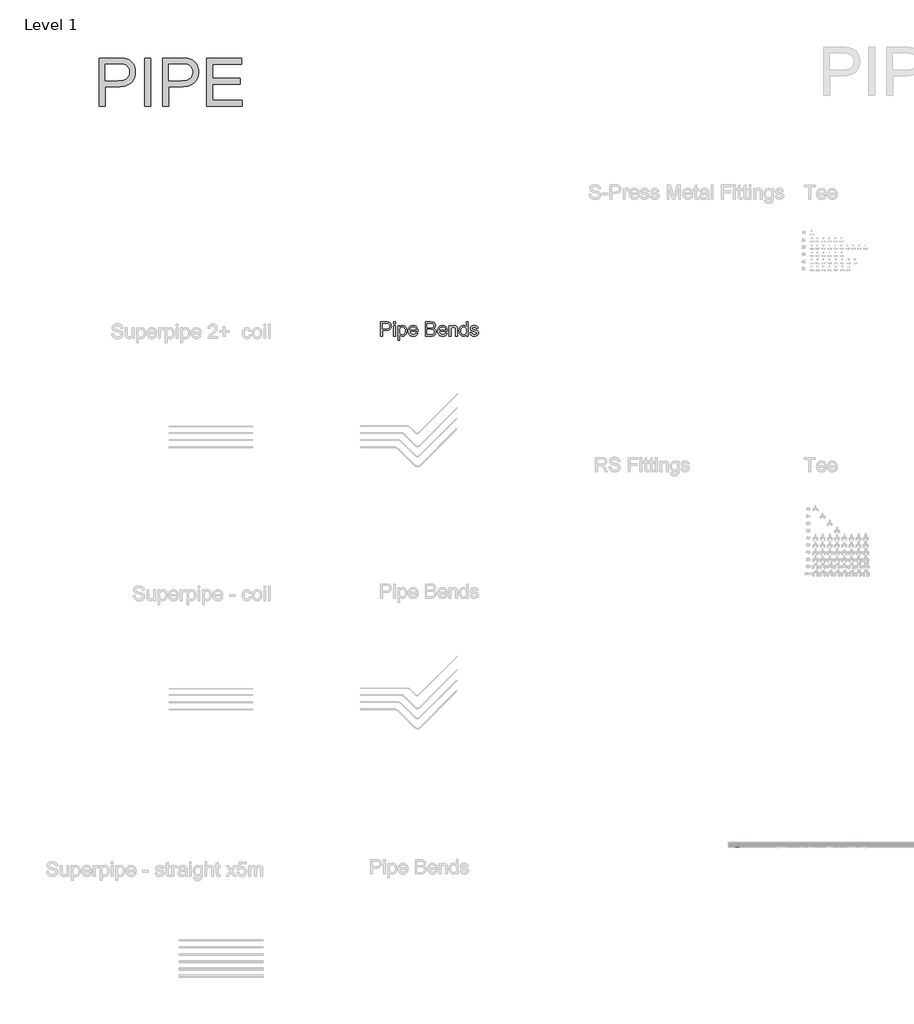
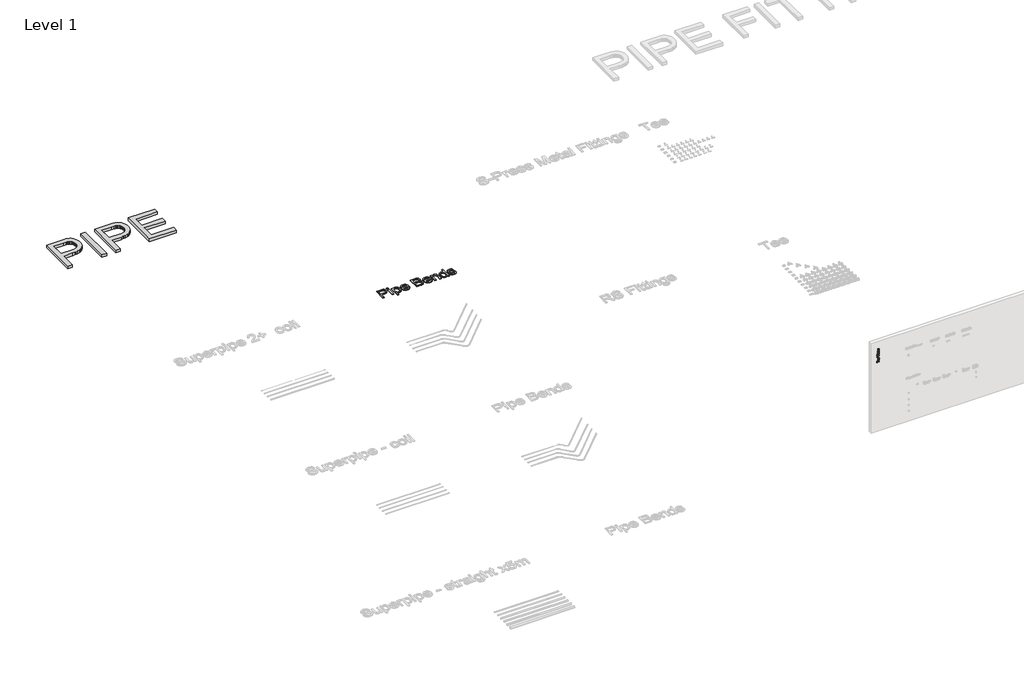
# One storey, part 11 of 58: 3 proxies.
"""IFC4 building model written with IfcOpenShell, lengths in millimetres."""

from ifc_helpers import new_model, si_unit, frame, origin, place, context, project, spatial, polyline, outline, extrude, element, save

model = new_model("IFC4")

# Units and contexts
model_context = context("Model", 3, world=origin())
ifc_project = project(units=[si_unit("LENGTHUNIT", "METRE", prefix="MILLI")], contexts=[model_context])

# Site, building, storey
site = spatial("IfcSite", under=ifc_project)
building = spatial("IfcBuilding", under=site)
storey = spatial("IfcBuildingStorey", under=building, Name="Level 1", Elevation=27.3876384)

# Proxies
placement = place(None, origin())
element("IfcBuildingElementProxy", 1, Name="125mm Arial - color", ObjectType="125mm Arial - color", at=placement, inside=storey, context=model_context, shape_type="SweptSolid", body=[
    extrude(outline(polyline([(4047.2802199, 10050.1646823), (4062.9765184, 10050.1646823), (4062.9765184, 9940.290593), (4104.1793018, 9940.290593), (4104.1793018, 9924.5942946), (4006.0774365, 9924.5942946), (4006.0774365, 9940.290593), (4047.2802199, 9940.290593), (4047.2802199, 10050.1646823)])), frame((0.0, 4542.8703674, 0.0), z_axis=(0.0, 1.0, 0.0), x_axis=(0.0, 0.0, 1.0)), (0.0, 0.0, 1.0), 2.0),
    extrude(outline(polyline([(4178.7367195, 10038.3924584), (4182.6607941, 10050.1646823), (4198.3570926, 10050.1646823), (4195.2300956, 10036.9669157), (4194.433018, 10009.6976628), (4194.433018, 9990.1692602), (4193.6665972, 9976.4349991), (4188.8534744, 9965.7817496), (4178.1082544, 9958.7766633), (4159.0856896, 9955.9868915), (4138.376999, 9959.1445453), (4124.7040515, 9968.1269973), (4117.913563, 9983.4554138), (4133.6098614, 9985.4174511), (4141.1820992, 9974.702888), (4157.0623386, 9971.6831899), (4174.4141061, 9976.2204012), (4178.7367195, 9987.8086841), (4178.644749, 9991.303563), (4151.4214814, 9996.6991656), (4137.8405044, 9999.0597418), (4126.8500298, 10004.2100897), (4118.9558953, 10013.2231986), (4115.9515257, 10025.6392159), (4117.9403877, 10036.1928306), (4123.9069738, 10044.6771092), (4133.5830367, 10050.264317), (4146.7003291, 10052.1267196), (4163.515602, 10049.0303794), (4178.7367195, 10038.3924584)]), holes=[polyline([(4178.7367195, 10006.9998615), (4178.644749, 10011.4451023), (4176.1615456, 10023.5852081), (4165.9221634, 10032.6749591), (4150.0419239, 10036.4304211), (4136.3229912, 10033.0275126), (4131.6478241, 10024.5355699), (4133.7938024, 10018.4961738), (4139.9098406, 10014.3575014), (4153.4141755, 10011.8129843), (4178.7367195, 10006.9998615)])]), frame((0.0, 4542.8703674, 0.0), z_axis=(0.0, 1.0, 0.0), x_axis=(0.0, 0.0, 1.0)), (0.0, 0.0, 1.0), 2.0),
    extrude(outline(polyline([(4216.0154284, 10085.4813538), (4231.7117268, 10085.4813538), (4231.7117268, 10037.9019491), (4241.6598691, 10048.095346), (4255.3174882, 10052.1267196), (4275.1677875, 10046.1026519), (4283.4757892, 10038.7603404), (4289.5458422, 10028.7815413), (4294.4969207, 10003.3516984), (4290.1129936, 9979.1634572), (4284.6714057, 9969.3685991), (4277.1144964, 9962.0569444), (4267.8331402, 9957.5044047), (4257.2182118, 9955.9868915), (4242.5642457, 9960.3248333), (4231.7117268, 9973.3386589), (4231.7117268, 9957.9489288), (4216.0154284, 9957.9489288), (4216.0154284, 10085.4813538)]), holes=[polyline([(4231.7117268, 10004.7925695), (4233.5243121, 9990.5563027), (4238.9620678, 9980.1598043), (4246.7527355, 9973.8023435), (4255.6240565, 9971.6831899), (4264.4608886, 9973.6758841), (4271.9641485, 9979.6539665), (4277.0915038, 9989.6327656), (4278.8006222, 10003.6276099), (4277.0493506, 10018.2279265), (4271.7955359, 10028.4289877), (4264.0891745, 10034.4300627), (4254.980263, 10036.4304211), (4246.0169715, 10034.4990406), (4238.5022153, 10028.7048992), (4233.4093489, 10018.8640558), (4231.7117268, 10004.7925695)])]), frame((0.0, 4542.8703674, 0.0), z_axis=(0.0, 1.0, 0.0), x_axis=(0.0, 0.0, 1.0)), (0.0, 0.0, 1.0), 2.0),
    extrude(outline(polyline([(4385.639685, 10050.1646823), (4404.5856077, 10050.1646823), (4432.0234732, 9956.0482052), (4436.7446255, 9939.7694269), (4440.9446116, 9953.2890902), (4471.0496215, 10050.1646823), (4487.8189091, 10050.1646823), (4522.0932484, 9924.5942946), (4505.9064406, 9924.5942946), (4485.8568718, 10007.8582528), (4479.9094462, 10032.598317), (4466.4510966, 9986.5517539), (4448.3635652, 9924.5942946), (4425.0337153, 9924.5942946), (4400.140367, 10010.0655448), (4393.5798047, 10032.598317), (4387.4484381, 10007.1224888), (4367.5828104, 9924.5942946), (4351.3960026, 9924.5942946), (4385.639685, 10050.1646823)])), frame((0.0, 4542.8703674, 0.0), z_axis=(0.0, 1.0, 0.0), x_axis=(0.0, 0.0, 1.0)), (0.0, 0.0, 1.0), 2.0),
    extrude(outline(polyline([(4594.6886287, 10038.3924584), (4598.6127033, 10050.1646823), (4614.3090018, 10050.1646823), (4611.1820049, 10036.9669157), (4610.3849272, 10009.6976628), (4610.3849272, 9990.1692602), (4609.6185064, 9976.4349991), (4604.8053836, 9965.7817496), (4594.0601637, 9958.7766633), (4575.0375988, 9955.9868915), (4554.3289082, 9959.1445453), (4540.6559607, 9968.1269973), (4533.8654722, 9983.4554138), (4549.5617707, 9985.4174511), (4557.1340084, 9974.702888), (4573.0142479, 9971.6831899), (4590.3660153, 9976.2204012), (4594.6886287, 9987.8086841), (4594.5966582, 9991.303563), (4567.3733906, 9996.6991656), (4553.7924136, 9999.0597418), (4542.801939, 10004.2100897), (4534.9078045, 10013.2231986), (4531.9034349, 10025.6392159), (4533.8922969, 10036.1928306), (4539.858883, 10044.6771092), (4549.5349459, 10050.264317), (4562.6522383, 10052.1267196), (4579.4675112, 10049.0303794), (4594.6886287, 10038.3924584)]), holes=[polyline([(4594.6886287, 10006.9998615), (4594.5966582, 10011.4451023), (4592.1134548, 10023.5852081), (4581.8740726, 10032.6749591), (4565.9938331, 10036.4304211), (4552.2749004, 10033.0275126), (4547.5997334, 10024.5355699), (4549.7457117, 10018.4961738), (4555.8617498, 10014.3575014), (4569.3660847, 10011.8129843), (4594.6886287, 10006.9998615)])]), frame((0.0, 4542.8703674, 0.0), z_axis=(0.0, 1.0, 0.0), x_axis=(0.0, 0.0, 1.0)), (0.0, 0.0, 1.0), 2.0),
    extrude(outline(polyline([(4665.3219718, 10037.0742146), (4658.4854981, 10036.4304211), (4653.1358807, 10035.3727604), (4650.4534078, 10032.5063465), (4649.6256733, 10024.4129426), (4649.6256733, 9973.6452273), (4665.3219718, 9973.6452273), (4665.3219718, 9957.9489288), (4649.6256733, 9957.9489288), (4649.6256733, 9926.3110772), (4633.9293749, 9935.5387839), (4633.9293749, 9957.9489288), (4622.157151, 9957.9489288), (4622.157151, 9973.6452273), (4633.9293749, 9973.6452273), (4633.9293749, 10024.8727951), (4635.8300985, 10042.684415), (4642.3906608, 10049.5208888), (4655.5424421, 10052.1267196), (4667.2840091, 10050.6245347), (4665.3219718, 10037.0742146)])), frame((0.0, 4542.8703674, 0.0), z_axis=(0.0, 1.0, 0.0), x_axis=(0.0, 0.0, 1.0)), (0.0, 0.0, 1.0), 2.0),
    extrude(outline(polyline([(4745.5815604, 10022.6961599), (4735.4648056, 10033.15014), (4720.0750754, 10036.4304211), (4708.9658056, 10034.659989), (4699.8568941, 10029.3486927), (4693.5454186, 10020.71113), (4690.8284568, 10008.9618988), (4761.3698294, 10008.9618988), (4761.4617999, 10004.7312558), (4758.484255, 9984.1528567), (4749.5516203, 9968.7707908), (4735.9284902, 9959.1828663), (4718.8794589, 9955.9868915), (4701.2824368, 9959.1905305), (4687.302921, 9968.8014477), (4678.174849, 9984.2141704), (4675.1321583, 10004.8232263), (4678.1441922, 10024.7616641), (4687.1802937, 10039.6953738), (4701.3514147, 10049.0188831), (4719.7685071, 10052.1267196), (4734.6255748, 10050.3256306), (4746.5779075, 10044.9223638), (4755.4262359, 10036.2541443), (4760.9712906, 10024.6581973), (4745.5815604, 10022.6961599)]), holes=[polyline([(4690.8284568, 9993.2656003), (4693.4074629, 9984.4172719), (4699.4890121, 9977.5539735), (4708.2377058, 9973.1508858), (4718.8181453, 9971.6831899), (4730.329786, 9973.5225999), (4739.4808507, 9979.0408299), (4745.7655014, 9993.2656003), (4690.8284568, 9993.2656003)])]), frame((0.0, 4542.8703674, 0.0), z_axis=(0.0, 1.0, 0.0), x_axis=(0.0, 0.0, 1.0)), (0.0, 0.0, 1.0), 2.0),
    extrude(outline(polyline([(4777.1580983, 10050.1646823), (4792.8543968, 10050.1646823), (4792.8543968, 10001.6962294), (4795.3989139, 9983.3634433), (4801.0550996, 9974.7795301), (4809.9302527, 9971.6831899), (4820.9667126, 9974.9021574), (4826.209031, 9960.8306711), (4810.4514189, 9955.9868915), (4800.6412324, 9959.0219179), (4790.8923595, 9971.5912194), (4790.8923595, 9957.9489288), (4777.1580983, 9957.9489288), (4777.1580983, 10050.1646823)])), frame((0.0, 4542.8703674, 0.0), z_axis=(0.0, 1.0, 0.0), x_axis=(0.0, 0.0, 1.0)), (0.0, 0.0, 1.0), 2.0),
])
element("IfcBuildingElementProxy", 2, Name="2000mm Arial", ObjectType="2000mm Arial", at=placement, inside=storey, context=model_context, shape_type="SweptSolid", body=[
    extrude(outline(polyline([(-16641.0429592, 35469.9645054), (-16641.0429592, 37479.0907084), (-15896.449801, 37479.0907084), (-15723.0547539, 37474.3082425), (-15653.8316252, 37468.3301601), (-15596.2580929, 37459.9608447), (-15526.3758423, 37444.8930113), (-15462.4103604, 37424.2149775), (-15404.3616472, 37397.9267433), (-15352.2297028, 37366.0283086), (-15305.4627042, 37327.8605516), (-15263.5088283, 37282.7643503), (-15226.3680752, 37230.7397049), (-15194.0404449, 37171.7866151), (-15167.8595096, 37107.8517901), (-15149.1588415, 37040.8819385), (-15137.9384406, 36970.8770605), (-15134.198307, 36897.8371561), (-15136.7236636, 36834.9369991), (-15144.2997334, 36774.5047172), (-15156.9265165, 36716.5403103), (-15174.6040128, 36661.0437785), (-15197.3322223, 36608.0151217), (-15225.1111451, 36557.45434), (-15257.940781, 36509.3614334), (-15295.8211302, 36463.7364017), (-15340.2926985, 36422.119751), (-15392.8959917, 36386.0519871), (-15453.6310098, 36355.5331099), (-15522.4977529, 36330.5631195), (-15599.4962209, 36311.1420158), (-15684.6264139, 36297.2697989), (-15777.8883317, 36288.9464688), (-15879.2819746, 36286.1720254), (-16389.9021839, 36286.1720254), (-16389.9021839, 35469.9645054), (-16641.0429592, 35469.9645054)]), holes=[polyline([(-16389.9021839, 36537.3128008), (-15864.5666948, 36537.3128008), (-15743.778773, 36543.0762854), (-15690.4665405, 36550.2806411), (-15641.8754603, 36560.3667391), (-15598.0055324, 36573.3345795), (-15558.8567568, 36589.1841621), (-15524.4291334, 36607.915487), (-15494.7226623, 36629.5285542), (-15469.0858857, 36653.7551165), (-15446.8673461, 36680.3269264), (-15428.0670433, 36709.2439841), (-15412.6849773, 36740.5062895), (-15400.7211483, 36774.1138426), (-15392.1755561, 36810.0666434), (-15387.0482008, 36848.3646919), (-15385.3390824, 36889.0079882), (-15389.3704559, 36947.6238527), (-15401.4645765, 37001.8251334), (-15421.6214441, 37051.61183), (-15449.8410589, 37096.9839428), (-15484.6212358, 37136.4699436), (-15524.4597902, 37168.5983045), (-15569.356722, 37193.3690255), (-15619.3120313, 37210.7821066), (-15660.5761284, 37218.2930307), (-15716.1876234, 37223.6579765), (-15870.4528067, 37227.9499331), (-16389.9021839, 37227.9499331), (-16389.9021839, 36537.3128008)])]), frame((0.0, 0.0, 27.3876384), z_axis=(0.0, 0.0, 1.0), x_axis=(1.0, 0.0, 0.0)), (0.0, 0.0, 1.0), 150.0),
    extrude(outline(polyline([(-14757.4871439, 35469.9645054), (-14757.4871439, 37479.0907084), (-14506.3463686, 37479.0907084), (-14506.3463686, 35469.9645054), (-14757.4871439, 35469.9645054)])), frame((0.0, 0.0, 27.3876384), z_axis=(0.0, 0.0, 1.0), x_axis=(1.0, 0.0, 0.0)), (0.0, 0.0, 1.0), 150.0),
    extrude(outline(polyline([(-14004.0648178, 35469.9645054), (-14004.0648178, 37479.0907084), (-13259.4716596, 37479.0907084), (-13086.0766125, 37474.3082425), (-13016.8534838, 37468.3301601), (-12959.2799515, 37459.9608447), (-12889.3977008, 37444.8930113), (-12825.4322189, 37424.2149775), (-12767.3835058, 37397.9267433), (-12715.2515614, 37366.0283086), (-12668.4845627, 37327.8605516), (-12626.5306869, 37282.7643503), (-12589.3899338, 37230.7397049), (-12557.0623034, 37171.7866151), (-12530.8813681, 37107.8517901), (-12512.1807, 37040.8819385), (-12500.9602992, 36970.8770605), (-12497.2201656, 36897.8371561), (-12499.7455222, 36834.9369991), (-12507.321592, 36774.5047172), (-12519.9483751, 36716.5403103), (-12537.6258714, 36661.0437785), (-12560.3540809, 36608.0151217), (-12588.1330036, 36557.45434), (-12620.9626396, 36509.3614334), (-12658.8429888, 36463.7364017), (-12703.3145571, 36422.119751), (-12755.9178503, 36386.0519871), (-12816.6528684, 36355.5331099), (-12885.5196115, 36330.5631195), (-12962.5180795, 36311.1420158), (-13047.6482724, 36297.2697989), (-13140.9101903, 36288.9464688), (-13242.3038331, 36286.1720254), (-13752.9240424, 36286.1720254), (-13752.9240424, 35469.9645054), (-14004.0648178, 35469.9645054)]), holes=[polyline([(-13752.9240424, 36537.3128008), (-13227.5885533, 36537.3128008), (-13106.8006316, 36543.0762854), (-13053.4883991, 36550.2806411), (-13004.8973189, 36560.3667391), (-12961.027391, 36573.3345795), (-12921.8786153, 36589.1841621), (-12887.4509919, 36607.915487), (-12857.7445208, 36629.5285542), (-12832.1077443, 36653.7551165), (-12809.8892046, 36680.3269264), (-12791.0889018, 36709.2439841), (-12775.7068359, 36740.5062895), (-12763.7430069, 36774.1138426), (-12755.1974147, 36810.0666434), (-12750.0700594, 36848.3646919), (-12748.3609409, 36889.0079882), (-12752.3923145, 36947.6238527), (-12764.4864351, 37001.8251334), (-12784.6433027, 37051.61183), (-12812.8629174, 37096.9839428), (-12847.6430944, 37136.4699436), (-12887.4816488, 37168.5983045), (-12932.3785806, 37193.3690255), (-12982.3338899, 37210.7821066), (-13023.597987, 37218.2930307), (-13079.2094819, 37223.6579765), (-13233.4746652, 37227.9499331), (-13752.9240424, 37227.9499331), (-13752.9240424, 36537.3128008)])]), frame((0.0, 0.0, 27.3876384), z_axis=(0.0, 0.0, 1.0), x_axis=(1.0, 0.0, 0.0)), (0.0, 0.0, 1.0), 150.0),
    extrude(outline(polyline([(-12151.9015994, 35469.9645054), (-12151.9015994, 37479.0907084), (-10707.842141, 37479.0907084), (-10707.842141, 37227.9499331), (-11900.7608241, 37227.9499331), (-11900.7608241, 36631.4905915), (-10770.6273349, 36631.4905915), (-10770.6273349, 36380.3498162), (-11900.7608241, 36380.3498162), (-11900.7608241, 35721.1052808), (-10676.4495441, 35721.1052808), (-10676.4495441, 35469.9645054), (-12151.9015994, 35469.9645054)])), frame((0.0, 0.0, 27.3876384), z_axis=(0.0, 0.0, 1.0), x_axis=(1.0, 0.0, 0.0)), (0.0, 0.0, 1.0), 150.0),
])
element("IfcBuildingElementProxy", 3, Name="600mm Arial", ObjectType="600mm Arial", at=placement, inside=storey, context=model_context, shape_type="SweptSolid", body=[
    extrude(outline(polyline([(-4890.0474702, 25873.588582), (-4890.0474702, 26464.3578128), (-4671.1051625, 26464.3578128), (-4620.1195855, 26462.9515628), (-4582.8359317, 26458.7328128), (-4543.4789605, 26448.2219955), (-4511.081124, 26431.1126205), (-4484.9933836, 26406.6294474), (-4464.5667009, 26373.9972359), (-4451.3695855, 26335.5056494), (-4446.9705471, 26293.4443513), (-4449.9407995, 26257.1793272), (-4458.8515567, 26223.8169474), (-4473.7028187, 26193.3572119), (-4494.4945855, 26165.8001205), (-4523.0387562, 26142.9575724), (-4561.1472298, 26126.6414667), (-4608.8200062, 26116.8518032), (-4666.0570855, 26113.588582), (-4816.2013163, 26113.588582), (-4816.2013163, 25873.588582), (-4890.0474702, 25873.588582)]), holes=[polyline([(-4816.2013163, 26187.4347359), (-4661.7301625, 26187.4347359), (-4626.2133355, 26189.1294474), (-4596.2493932, 26194.213582), (-4571.8383355, 26202.6871397), (-4552.9801625, 26214.5501205), (-4538.908648, 26229.4870195), (-4528.8575663, 26247.182332), (-4522.8269173, 26267.636058), (-4520.8167009, 26290.8481974), (-4525.5582875, 26324.0212744), (-4539.7830471, 26352.0020436), (-4561.7241529, 26373.0597359), (-4589.6147779, 26385.463582), (-4618.1003548, 26389.2496397), (-4663.4609317, 26390.511659), (-4816.2013163, 26390.511659), (-4816.2013163, 26187.4347359)])]), frame((0.0, 0.0, 27.3876384), z_axis=(0.0, 0.0, 1.0), x_axis=(1.0, 0.0, 0.0)), (0.0, 0.0, 1.0), 30.0),
    extrude(outline(polyline([(-4354.6628548, 25873.588582), (-4354.6628548, 26307.4347359), (-4280.8167009, 26307.4347359), (-4280.8167009, 25873.588582), (-4354.6628548, 25873.588582)])), frame((0.0, 0.0, 27.3876384), z_axis=(0.0, 0.0, 1.0), x_axis=(1.0, 0.0, 0.0)), (0.0, 0.0, 1.0), 30.0),
    extrude(outline(polyline([(-4354.6628548, 26390.511659), (-4354.6628548, 26464.3578128), (-4280.8167009, 26464.3578128), (-4280.8167009, 26390.511659), (-4354.6628548, 26390.511659)])), frame((0.0, 0.0, 27.3876384), z_axis=(0.0, 0.0, 1.0), x_axis=(1.0, 0.0, 0.0)), (0.0, 0.0, 1.0), 30.0),
    extrude(outline(polyline([(-4170.0474702, 25707.4347359), (-4170.0474702, 26307.4347359), (-4096.2013163, 26307.4347359), (-4096.2013163, 26235.0308897), (-4072.1147779, 26270.746034), (-4045.143624, 26296.2568513), (-4013.7013163, 26311.5633417), (-3976.2013163, 26316.6655051), (-3950.4471096, 26314.8806494), (-3926.2614125, 26309.526082), (-3903.644225, 26300.6018032), (-3882.5955471, 26288.1078128), (-3863.5751144, 26272.3686301), (-3847.0426625, 26253.7087744), (-3832.9981913, 26232.1282455), (-3821.4417009, 26207.6270436), (-3805.9729509, 26153.2159859), (-3800.8167009, 26093.8289667), (-3806.6400182, 26030.6739186), (-3813.9191649, 26001.5978969), (-3824.1099702, 25974.1895436), (-3837.0727105, 25949.1655051), (-3852.6676625, 25927.2424282), (-3870.8948259, 25908.4203128), (-3891.7542009, 25892.699159), (-3914.2226505, 25880.29982), (-3937.2770375, 25871.4431494), (-3960.917362, 25866.1291469), (-3985.143624, 25864.3578128), (-4019.0919413, 25869.0993994), (-4049.3984317, 25883.324159), (-4075.3419413, 25904.7965147), (-4096.2013163, 25931.2808897), (-4096.2013163, 25707.4347359), (-4170.0474702, 25707.4347359)]), holes=[polyline([(-4096.2013163, 26087.0501205), (-4094.2046216, 26051.4611782), (-4088.2145375, 26020.8481974), (-4078.2310639, 25995.2111782), (-4064.2542009, 25974.5501205), (-4047.4287803, 25958.6486782), (-4028.8996336, 25947.2905051), (-4008.666761, 25940.4756013), (-3986.7301625, 25938.2039667), (-3964.4780591, 25940.5567311), (-3943.8755952, 25947.6150244), (-3924.9227706, 25959.3788465), (-3907.6195855, 25975.8481974), (-3893.2010158, 25997.2574522), (-3882.9020375, 26023.8409859), (-3876.7226505, 26055.5987984), (-3874.6628548, 26092.5308897), (-3876.6730711, 26127.8133417), (-3882.7037202, 26158.3722359), (-3892.7548019, 26184.2075724), (-3906.8263163, 26205.3193513), (-3923.6923019, 26221.7256013), (-3942.1267971, 26233.4443513), (-3962.1298019, 26240.4756013), (-3983.7013163, 26242.8193513), (-4005.2052226, 26240.3268633), (-4025.4380952, 26232.8493994), (-4044.3999341, 26220.3869594), (-4062.0907394, 26202.9395436), (-4077.0141168, 26180.7415268), (-4087.6736721, 26154.027284), (-4094.0694053, 26122.7968152), (-4096.2013163, 26087.0501205)])]), frame((0.0, 0.0, 27.3876384), z_axis=(0.0, 0.0, 1.0), x_axis=(1.0, 0.0, 0.0)), (0.0, 0.0, 1.0), 30.0),
    extrude(outline(polyline([(-3413.9897779, 26002.8193513), (-3341.5859317, 25993.588582), (-3352.6871937, 25964.589183), (-3367.6736721, 25939.0332936), (-3386.5453668, 25916.9209138), (-3409.3022779, 25898.2520436), (-3435.7100303, 25883.4233176), (-3465.534249, 25872.8313705), (-3498.7749341, 25866.4762022), (-3535.4320855, 25864.3578128), (-3581.252398, 25868.0131614), (-3622.0787202, 25878.979207), (-3657.9110519, 25897.2559498), (-3688.7493932, 25922.8433897), (-3713.5480711, 25955.0293873), (-3731.2614125, 25993.1018032), (-3741.8894173, 26037.0606373), (-3745.4320855, 26086.9058897), (-3741.8533596, 26138.4413465), (-3731.1171817, 26183.8650244), (-3713.2235519, 26223.1769234), (-3688.1724702, 26256.3770436), (-3657.4152586, 26282.7532455), (-3622.4032394, 26301.5933897), (-3583.1364125, 26312.8974763), (-3539.6147779, 26316.6655051), (-3497.494886, 26312.9064907), (-3459.4044413, 26301.6294474), (-3425.3434437, 26282.8343753), (-3395.3118932, 26256.5212744), (-3370.7971697, 26223.3932695), (-3353.2866529, 26184.1534859), (-3342.7803428, 26138.8019234), (-3339.2782394, 26087.338582), (-3339.7109317, 26067.4347359), (-3671.5859317, 26067.4347359), (-3667.308588, 26037.9665869), (-3658.8034798, 26012.1582936), (-3646.0706072, 25990.0098561), (-3629.1099702, 25971.5212744), (-3608.8590687, 25956.9449522), (-3586.2554029, 25946.5332936), (-3561.2989726, 25940.2862984), (-3533.9897779, 25938.2039667), (-3494.6868932, 25942.0621397), (-3461.5859317, 25953.636659), (-3434.6868932, 25973.6486782), (-3413.9897779, 26002.8193513)]), holes=[polyline([(-3671.5859317, 26141.2808897), (-3413.1243932, 26141.2808897), (-3423.112374, 26180.2953128), (-3431.7031192, 26195.6378609), (-3442.6917009, 26208.2039667), (-3462.8299221, 26223.3481974), (-3485.7445855, 26234.1655051), (-3511.4356913, 26240.6558897), (-3539.9032394, 26242.8193513), (-3565.8692851, 26241.0930893), (-3589.6808836, 26235.9143032), (-3611.3380351, 26227.2829931), (-3630.8407394, 26215.199159), (-3647.2064245, 26200.221695), (-3659.4525182, 26182.9094955), (-3667.5790206, 26163.2625604), (-3671.5859317, 26141.2808897)])]), frame((0.0, 0.0, 27.3876384), z_axis=(0.0, 0.0, 1.0), x_axis=(1.0, 0.0, 0.0)), (0.0, 0.0, 1.0), 30.0),
    extrude(outline(polyline([(-3025.4320855, 25873.588582), (-3025.4320855, 26464.3578128), (-2799.9993932, 26464.3578128), (-2737.9981913, 26460.0128609), (-2689.5907394, 26446.9780051), (-2652.487374, 26424.9287263), (-2637.3161, 26410.4019835), (-2624.3984317, 26393.5405051), (-2606.7121336, 26356.6174282), (-2600.8167009, 26317.963582), (-2605.7746336, 26282.3926686), (-2620.6484317, 26248.949159), (-2645.5462682, 26219.6883417), (-2680.5763163, 26196.6655051), (-2658.2881553, 26187.1643032), (-2638.7313644, 26174.8145436), (-2621.9059437, 26159.6162263), (-2607.8118932, 26141.5693513), (-2596.6745735, 26121.2237984), (-2588.7193452, 26099.1294474), (-2583.9462081, 26075.2862984), (-2582.3551625, 26049.6943513), (-2586.7001144, 26008.4984378), (-2599.7349702, 25970.2953128), (-2619.1880952, 25937.807332), (-2642.7878548, 25913.7568513), (-2671.6880952, 25896.3409859), (-2707.0426625, 25883.7568513), (-2750.0054029, 25876.1306494), (-2801.7301625, 25873.588582), (-3025.4320855, 25873.588582)]), holes=[polyline([(-2951.5859317, 25947.4347359), (-2800.143624, 25947.4347359), (-2745.3359317, 25950.3193513), (-2719.8972298, 25956.7195917), (-2698.9657394, 25966.401082), (-2681.9465086, 25980.2652647), (-2668.2445855, 25999.213582), (-2659.2121336, 26022.3986782), (-2656.2013163, 26048.9731974), (-2659.7349702, 26079.838582), (-2670.3359317, 26106.3770436), (-2688.8515567, 26127.1282455), (-2716.1292009, 26140.6318513), (-2754.7650182, 26148.041707), (-2807.3551625, 26150.511659), (-2951.5859317, 26150.511659), (-2951.5859317, 25947.4347359)]), polyline([(-2951.5859317, 26224.3578128), (-2816.7301625, 26224.3578128), (-2769.5667009, 26225.9443513), (-2737.9801625, 26230.7039667), (-2710.4140567, 26241.6474763), (-2690.6003548, 26258.0356974), (-2678.6472298, 26279.6162263), (-2674.6628548, 26306.136659), (-2678.3767971, 26331.8818513), (-2689.518624, 26354.3097359), (-2707.5835279, 26371.8157455), (-2732.0667009, 26382.7953128), (-2769.6388163, 26388.5825724), (-2826.9705471, 26390.511659), (-2951.5859317, 26390.511659), (-2951.5859317, 26224.3578128)])]), frame((0.0, 0.0, 27.3876384), z_axis=(0.0, 0.0, 1.0), x_axis=(1.0, 0.0, 0.0)), (0.0, 0.0, 1.0), 30.0),
    extrude(outline(polyline([(-2186.2974702, 26002.8193513), (-2113.893624, 25993.588582), (-2124.994886, 25964.589183), (-2139.9813644, 25939.0332936), (-2158.8530591, 25916.9209138), (-2181.6099702, 25898.2520436), (-2208.0177226, 25883.4233176), (-2237.8419413, 25872.8313705), (-2271.0826264, 25866.4762022), (-2307.7397779, 25864.3578128), (-2353.5600904, 25868.0131614), (-2394.3864125, 25878.979207), (-2430.2187442, 25897.2559498), (-2461.0570855, 25922.8433897), (-2485.8557634, 25955.0293873), (-2503.5691048, 25993.1018032), (-2514.1971096, 26037.0606373), (-2517.7397779, 26086.9058897), (-2514.1610519, 26138.4413465), (-2503.424874, 26183.8650244), (-2485.5312442, 26223.1769234), (-2460.4801625, 26256.3770436), (-2429.7229509, 26282.7532455), (-2394.7109317, 26301.5933897), (-2355.4441048, 26312.8974763), (-2311.9224702, 26316.6655051), (-2269.8025783, 26312.9064907), (-2231.7121336, 26301.6294474), (-2197.651136, 26282.8343753), (-2167.6195855, 26256.5212744), (-2143.104862, 26223.3932695), (-2125.5943452, 26184.1534859), (-2115.0880351, 26138.8019234), (-2111.5859317, 26087.338582), (-2112.018624, 26067.4347359), (-2443.893624, 26067.4347359), (-2439.6162803, 26037.9665869), (-2431.1111721, 26012.1582936), (-2418.3782995, 25990.0098561), (-2401.4176625, 25971.5212744), (-2381.166761, 25956.9449522), (-2358.5630952, 25946.5332936), (-2333.6066649, 25940.2862984), (-2306.2974702, 25938.2039667), (-2266.9945855, 25942.0621397), (-2233.893624, 25953.636659), (-2206.9945855, 25973.6486782), (-2186.2974702, 26002.8193513)]), holes=[polyline([(-2443.893624, 26141.2808897), (-2185.4320855, 26141.2808897), (-2195.4200663, 26180.2953128), (-2204.0108115, 26195.6378609), (-2214.9993932, 26208.2039667), (-2235.1376144, 26223.3481974), (-2258.0522779, 26234.1655051), (-2283.7433836, 26240.6558897), (-2312.2109317, 26242.8193513), (-2338.1769774, 26241.0930893), (-2361.9885759, 26235.9143032), (-2383.6457274, 26227.2829931), (-2403.1484317, 26215.199159), (-2419.5141168, 26200.221695), (-2431.7602105, 26182.9094955), (-2439.886713, 26163.2625604), (-2443.893624, 26141.2808897)])]), frame((0.0, 0.0, 27.3876384), z_axis=(0.0, 0.0, 1.0), x_axis=(1.0, 0.0, 0.0)), (0.0, 0.0, 1.0), 30.0),
    extrude(outline(polyline([(-2037.7397779, 25873.588582), (-2037.7397779, 26307.4347359), (-1963.893624, 26307.4347359), (-1963.893624, 26246.8578128), (-1938.2385759, 26277.3986782), (-1907.4272779, 26299.213582), (-1871.4597298, 26312.3025244), (-1830.3359317, 26316.6655051), (-1793.9356913, 26313.1498801), (-1760.6003548, 26302.6030051), (-1732.799874, 26286.3409859), (-1713.0042009, 26265.6799282), (-1699.5727105, 26240.6739186), (-1690.8647779, 26211.3770436), (-1686.9705471, 26139.9828128), (-1686.9705471, 25873.588582), (-1760.8167009, 25873.588582), (-1760.8167009, 26130.0308897), (-1762.9441048, 26168.2159859), (-1769.3263163, 26195.3674282), (-1781.0991529, 26214.8205532), (-1799.3984317, 26229.9106974), (-1822.8539605, 26239.5921878), (-1850.0955471, 26242.8193513), (-1872.5189245, 26241.0074522), (-1893.346749, 26235.5717551), (-1912.5790206, 26226.5122599), (-1930.2157394, 26213.8289667), (-1944.9498139, 26196.0795676), (-1955.4741529, 26171.8217551), (-1961.7887562, 26141.0555292), (-1963.893624, 26103.7808897), (-1963.893624, 25873.588582), (-2037.7397779, 25873.588582)])), frame((0.0, 0.0, 27.3876384), z_axis=(0.0, 0.0, 1.0), x_axis=(1.0, 0.0, 0.0)), (0.0, 0.0, 1.0), 30.0),
    extrude(outline(polyline([(-1317.7397779, 25873.588582), (-1317.7397779, 25943.2520436), (-1339.8341288, 25908.7358176), (-1366.5979509, 25884.0813705), (-1398.0312442, 25869.2887022), (-1434.1340086, 25864.3578128), (-1458.5090086, 25866.1426686), (-1481.8743932, 25871.4972359), (-1504.2301625, 25880.4215147), (-1525.5763163, 25892.9155051), (-1545.2457875, 25908.6051085), (-1562.5715086, 25927.1162263), (-1577.5534798, 25948.4488585), (-1590.1917009, 25972.6030051), (-1600.2247538, 25999.1189306), (-1607.3912202, 26027.5368994), (-1613.1243932, 26090.0789667), (-1607.8419413, 26151.8457936), (-1591.9945855, 26207.6270436), (-1580.1135759, 26232.479808), (-1565.6003548, 26254.2496397), (-1548.4549221, 26272.9365388), (-1528.6772779, 26288.5405051), (-1506.9660399, 26300.8451926), (-1484.0198259, 26309.6342551), (-1459.838636, 26314.9076926), (-1434.4224702, 26316.6655051), (-1398.2926625, 26311.635457), (-1366.3455471, 26296.5453128), (-1339.2662202, 26273.4143032), (-1317.7397779, 26244.261659), (-1317.7397779, 26464.3578128), (-1243.893624, 26464.3578128), (-1243.893624, 25873.588582), (-1317.7397779, 25873.588582)]), holes=[polyline([(-1539.2782394, 26090.3674282), (-1537.1959077, 26054.5576325), (-1530.9489125, 26023.5705532), (-1520.5372538, 25997.4061902), (-1505.9609317, 25976.0645436), (-1488.5540807, 25959.5005412), (-1469.6508355, 25947.6691109), (-1449.2511961, 25940.5702527), (-1427.3551625, 25938.2039667), (-1405.355463, 25940.4620796), (-1385.0775182, 25947.2364186), (-1366.5213283, 25958.5269835), (-1349.6868932, 25974.3337744), (-1335.7100303, 25994.7829931), (-1325.7265567, 26020.0008417), (-1319.7364726, 26049.98732), (-1317.7397779, 26084.7424282), (-1319.7725303, 26122.8463945), (-1325.8707875, 26155.5236782), (-1336.0345495, 26182.7742792), (-1350.2638163, 26204.5981974), (-1367.4678428, 26221.3199522), (-1386.5558836, 26233.2640628), (-1407.5279389, 26240.4305292), (-1430.3840086, 26242.8193513), (-1452.7127346, 26240.5251806), (-1473.112374, 26233.6426686), (-1491.5829269, 26222.1718152), (-1508.1243932, 26206.1126205), (-1521.7542009, 26185.1135219), (-1531.4897779, 26158.822957), (-1537.331124, 26127.2409258), (-1539.2782394, 26090.3674282)])]), frame((0.0, 0.0, 27.3876384), z_axis=(0.0, 0.0, 1.0), x_axis=(1.0, 0.0, 0.0)), (0.0, 0.0, 1.0), 30.0),
    extrude(outline(polyline([(-1160.8167009, 26002.8193513), (-1086.9705471, 26012.0501205), (-1082.5084077, 25995.2111782), (-1075.3239125, 25980.463582), (-1065.4170615, 25967.807332), (-1052.7878548, 25957.2424282), (-1037.4002346, 25948.9131013), (-1019.2181432, 25942.963582), (-974.4705471, 25938.2039667), (-930.2638163, 25942.5669474), (-913.0823259, 25948.0206734), (-899.1820855, 25955.6558897), (-880.7926625, 25974.6222359), (-874.6628548, 25996.6174282), (-876.2043211, 26006.5873801), (-880.8287202, 26015.4395436), (-899.3263163, 26029.7905051), (-926.9825663, 26039.1655051), (-975.3359317, 26050.8481974), (-1042.7277586, 26070.3373801), (-1086.5378548, 26086.9780051), (-1114.6808836, 26105.1330532), (-1135.0715086, 26129.1655051), (-1147.4573259, 26157.542909), (-1151.5859317, 26188.7328128), (-1148.268624, 26217.3445917), (-1138.3167009, 26243.7568513), (-1122.6316048, 26266.9239186), (-1102.1147779, 26285.8001205), (-1081.7241529, 26297.6811301), (-1055.1676625, 26307.651082), (-1024.4645375, 26314.4118994), (-991.6340086, 26316.6655051), (-943.5691048, 26313.041707), (-901.7782394, 26302.1703128), (-868.1724702, 26285.1150244), (-844.6628548, 26262.9395436), (-829.0859317, 26234.0032455), (-819.2782394, 26196.6655051), (-893.1243932, 26187.4347359), (-902.4453067, 26210.6739186), (-920.8888163, 26228.1799282), (-948.6352105, 26239.1594955), (-985.8647779, 26242.8193513), (-1028.268624, 26239.3217551), (-1056.5378548, 26228.8289667), (-1072.4392971, 26213.6847359), (-1077.7397779, 26196.2328128), (-1075.5402586, 26184.8746397), (-1068.9417009, 26174.7424282), (-1057.6556432, 26165.6919474), (-1041.393624, 26158.4443513), (-977.7878548, 26142.7231974), (-869.3984317, 26107.963582), (-840.768624, 26091.3409859), (-819.0618932, 26068.588582), (-805.377999, 26039.6342551), (-800.8167009, 26004.4058897), (-806.1712682, 25967.9876205), (-822.2349702, 25933.7328128), (-848.3948259, 25904.3277647), (-884.0378548, 25882.4587744), (-927.0907394, 25868.8830532), (-975.4801625, 25864.3578128), (-1015.2247538, 25866.5393032), (-1049.9392971, 25873.0837744), (-1079.6237923, 25883.9912263), (-1104.2782394, 25899.261659), (-1124.4164605, 25918.822957), (-1140.5522779, 25942.6030051), (-1152.6856913, 25970.6018032), (-1160.8167009, 26002.8193513)])), frame((0.0, 0.0, 27.3876384), z_axis=(0.0, 0.0, 1.0), x_axis=(1.0, 0.0, 0.0)), (0.0, 0.0, 1.0), 30.0),
])

save(model, "model.ifc")
